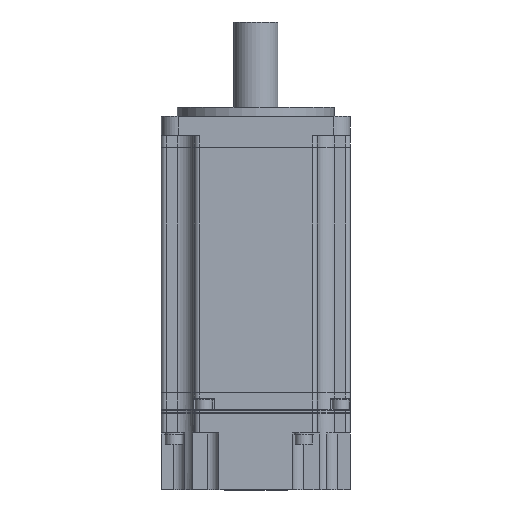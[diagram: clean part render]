
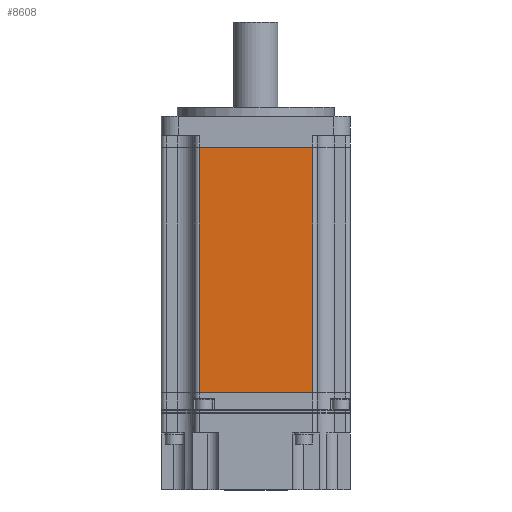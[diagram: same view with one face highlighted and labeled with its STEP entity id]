
A CAD part, front view. The second image highlights one B-rep face of the part: STEP entity #8608.
In plain terms, the highlighted planar face has unit normal (0, -1, 0).
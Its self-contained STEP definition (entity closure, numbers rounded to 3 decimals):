
#427 = CARTESIAN_POINT ( 'NONE',  ( 18., -30., -10. ) ) ;
#429 = DIRECTION ( 'NONE',  ( 1., 0., 0. ) ) ;
#430 = VECTOR ( 'NONE', #429, 1000. ) ;
#431 = CARTESIAN_POINT ( 'NONE',  ( -18., -30., -10. ) ) ;
#438 = LINE ( 'NONE', #431, #430 ) ;
#506 = CARTESIAN_POINT ( 'NONE',  ( -18., -30., -10. ) ) ;
#1021 = DIRECTION ( 'NONE',  ( 0., 0., -1. ) ) ;
#1022 = VECTOR ( 'NONE', #1021, 1000. ) ;
#1023 = CARTESIAN_POINT ( 'NONE',  ( -18., -30., 10.971 ) ) ;
#1024 = LINE ( 'NONE', #1023, #1022 ) ;
#1183 = CARTESIAN_POINT ( 'NONE',  ( 18., -30., -87.5 ) ) ;
#1184 = DIRECTION ( 'NONE',  ( 0., 0., -1. ) ) ;
#1185 = VECTOR ( 'NONE', #1184, 1000. ) ;
#1186 = CARTESIAN_POINT ( 'NONE',  ( 18., -30., 10.971 ) ) ;
#1187 = LINE ( 'NONE', #1186, #1185 ) ;
#1289 = DIRECTION ( 'NONE',  ( 1., 0., 0. ) ) ;
#1290 = VECTOR ( 'NONE', #1289, 1000. ) ;
#1291 = CARTESIAN_POINT ( 'NONE',  ( -18., -30., -87.5 ) ) ;
#1292 = LINE ( 'NONE', #1291, #1290 ) ;
#1293 = DIRECTION ( 'NONE',  ( 1., 0., 0. ) ) ;
#1294 = DIRECTION ( 'NONE',  ( 0., -1., 0. ) ) ;
#1295 = CARTESIAN_POINT ( 'NONE',  ( -30., -30., -6. ) ) ;
#1296 = AXIS2_PLACEMENT_3D ( 'NONE', #1295, #1294, #1293 ) ;
#1297 = PLANE ( 'NONE',  #1296 ) ;
#1298 = FACE_OUTER_BOUND ( 'NONE', #8609, .T. ) ;
#5686 = VERTEX_POINT ( 'NONE', #11838 ) ;
#8102 = EDGE_CURVE ( 'NONE', #8130, #8103, #438, .T. ) ;
#8103 = VERTEX_POINT ( 'NONE', #427 ) ;
#8130 = VERTEX_POINT ( 'NONE', #506 ) ;
#8472 = EDGE_CURVE ( 'NONE', #8130, #5686, #1024, .T. ) ;
#8556 = EDGE_CURVE ( 'NONE', #8103, #8557, #1187, .T. ) ;
#8557 = VERTEX_POINT ( 'NONE', #1183 ) ;
#8608 = ADVANCED_FACE ( 'NONE', ( #1298 ), #1297, .T. ) ;
#8609 = EDGE_LOOP ( 'NONE', ( #8610, #8612, #8613, #8614 ) ) ;
#8610 = ORIENTED_EDGE ( 'NONE', *, *, #8611, .T. ) ;
#8611 = EDGE_CURVE ( 'NONE', #5686, #8557, #1292, .T. ) ;
#8612 = ORIENTED_EDGE ( 'NONE', *, *, #8556, .F. ) ;
#8613 = ORIENTED_EDGE ( 'NONE', *, *, #8102, .F. ) ;
#8614 = ORIENTED_EDGE ( 'NONE', *, *, #8472, .T. ) ;
#11838 = CARTESIAN_POINT ( 'NONE',  ( -18., -30., -87.5 ) ) ;
